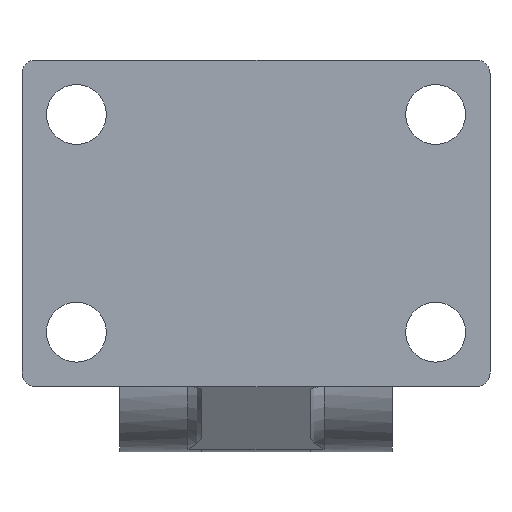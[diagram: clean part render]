
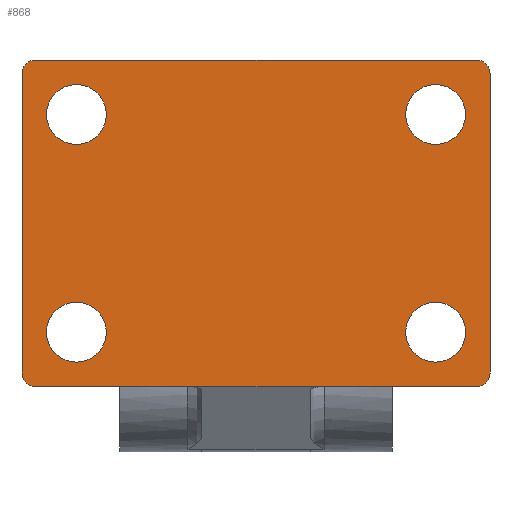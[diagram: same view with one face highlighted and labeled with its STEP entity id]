
A CAD part, left-side view. The second image highlights one B-rep face of the part: STEP entity #868.
In plain terms, the highlighted planar face has unit normal (-1, 0, 0).
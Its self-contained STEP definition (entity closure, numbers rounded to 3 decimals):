
#13=CARTESIAN_POINT('',(0.,-33.,-20.));
#14=DIRECTION('',(-1.,0.,0.));
#15=DIRECTION('',(0.,-1.,0.));
#16=AXIS2_PLACEMENT_3D('',#13,#14,#15);
#18=CARTESIAN_POINT('',(0.,-33.,-20.));
#19=DIRECTION('',(-1.,0.,0.));
#20=DIRECTION('',(0.,1.,0.));
#21=AXIS2_PLACEMENT_3D('',#18,#19,#20);
#23=CARTESIAN_POINT('',(0.,-33.,20.));
#24=DIRECTION('',(-1.,0.,0.));
#25=DIRECTION('',(0.,-1.,0.));
#26=AXIS2_PLACEMENT_3D('',#23,#24,#25);
#28=CARTESIAN_POINT('',(0.,-33.,20.));
#29=DIRECTION('',(-1.,0.,0.));
#30=DIRECTION('',(0.,1.,0.));
#31=AXIS2_PLACEMENT_3D('',#28,#29,#30);
#33=CARTESIAN_POINT('',(0.,33.,20.));
#34=DIRECTION('',(-1.,0.,0.));
#35=DIRECTION('',(0.,-1.,0.));
#36=AXIS2_PLACEMENT_3D('',#33,#34,#35);
#38=CARTESIAN_POINT('',(0.,33.,20.));
#39=DIRECTION('',(-1.,0.,0.));
#40=DIRECTION('',(0.,1.,0.));
#41=AXIS2_PLACEMENT_3D('',#38,#39,#40);
#43=CARTESIAN_POINT('',(0.,33.,-20.));
#44=DIRECTION('',(-1.,0.,0.));
#45=DIRECTION('',(0.,-1.,0.));
#46=AXIS2_PLACEMENT_3D('',#43,#44,#45);
#48=CARTESIAN_POINT('',(0.,33.,-20.));
#49=DIRECTION('',(-1.,0.,0.));
#50=DIRECTION('',(0.,1.,0.));
#51=AXIS2_PLACEMENT_3D('',#48,#49,#50);
#53=CARTESIAN_POINT('',(0.,-40.5,27.5));
#54=DIRECTION('',(-1.,0.,0.));
#55=DIRECTION('',(0.,-1.,0.));
#56=AXIS2_PLACEMENT_3D('',#53,#54,#55);
#58=DIRECTION('',(0.,0.,-1.));
#59=VECTOR('',#58,55.);
#60=CARTESIAN_POINT('',(0.,-43.,27.5));
#61=LINE('',#60,#59);
#62=CARTESIAN_POINT('',(0.,-40.5,-27.5));
#63=DIRECTION('',(-1.,0.,0.));
#64=DIRECTION('',(0.,0.,-1.));
#65=AXIS2_PLACEMENT_3D('',#62,#63,#64);
#67=DIRECTION('',(0.,1.,0.));
#68=VECTOR('',#67,81.);
#69=CARTESIAN_POINT('',(0.,-40.5,-30.));
#70=LINE('',#69,#68);
#71=CARTESIAN_POINT('',(0.,40.5,-27.5));
#72=DIRECTION('',(-1.,0.,0.));
#73=DIRECTION('',(0.,1.,0.));
#74=AXIS2_PLACEMENT_3D('',#71,#72,#73);
#76=DIRECTION('',(0.,0.,1.));
#77=VECTOR('',#76,55.);
#78=CARTESIAN_POINT('',(0.,43.,-27.5));
#79=LINE('',#78,#77);
#80=CARTESIAN_POINT('',(0.,40.5,27.5));
#81=DIRECTION('',(-1.,0.,0.));
#82=DIRECTION('',(0.,0.,1.));
#83=AXIS2_PLACEMENT_3D('',#80,#81,#82);
#85=DIRECTION('',(0.,-1.,0.));
#86=VECTOR('',#85,81.);
#87=CARTESIAN_POINT('',(0.,40.5,30.));
#88=LINE('',#87,#86);
#665=CARTESIAN_POINT('',(0.,-38.5,-20.));
#666=CARTESIAN_POINT('',(0.,-27.5,-20.));
#667=VERTEX_POINT('',#665);
#668=VERTEX_POINT('',#666);
#669=CARTESIAN_POINT('',(0.,-38.5,20.));
#670=CARTESIAN_POINT('',(0.,-27.5,20.));
#671=VERTEX_POINT('',#669);
#672=VERTEX_POINT('',#670);
#673=CARTESIAN_POINT('',(0.,27.5,20.));
#674=CARTESIAN_POINT('',(0.,38.5,20.));
#675=VERTEX_POINT('',#673);
#676=VERTEX_POINT('',#674);
#677=CARTESIAN_POINT('',(0.,27.5,-20.));
#678=CARTESIAN_POINT('',(0.,38.5,-20.));
#679=VERTEX_POINT('',#677);
#680=VERTEX_POINT('',#678);
#749=CARTESIAN_POINT('',(0.,-43.,27.5));
#750=CARTESIAN_POINT('',(0.,-40.5,30.));
#751=VERTEX_POINT('',#749);
#752=VERTEX_POINT('',#750);
#757=CARTESIAN_POINT('',(0.,-40.5,-30.));
#758=CARTESIAN_POINT('',(0.,-43.,-27.5));
#759=VERTEX_POINT('',#757);
#760=VERTEX_POINT('',#758);
#765=CARTESIAN_POINT('',(0.,43.,-27.5));
#766=CARTESIAN_POINT('',(0.,40.5,-30.));
#767=VERTEX_POINT('',#765);
#768=VERTEX_POINT('',#766);
#773=CARTESIAN_POINT('',(0.,40.5,30.));
#774=CARTESIAN_POINT('',(0.,43.,27.5));
#775=VERTEX_POINT('',#773);
#776=VERTEX_POINT('',#774);
#821=CARTESIAN_POINT('',(0.,0.,0.));
#822=DIRECTION('',(1.,0.,0.));
#823=DIRECTION('',(0.,-1.,0.));
#824=AXIS2_PLACEMENT_3D('',#821,#822,#823);
#825=PLANE('',#824);
#827=ORIENTED_EDGE('',*,*,#826,.F.);
#829=ORIENTED_EDGE('',*,*,#828,.T.);
#831=ORIENTED_EDGE('',*,*,#830,.F.);
#833=ORIENTED_EDGE('',*,*,#832,.T.);
#835=ORIENTED_EDGE('',*,*,#834,.F.);
#837=ORIENTED_EDGE('',*,*,#836,.T.);
#839=ORIENTED_EDGE('',*,*,#838,.F.);
#841=ORIENTED_EDGE('',*,*,#840,.T.);
#842=EDGE_LOOP('',(#827,#829,#831,#833,#835,#837,#839,#841));
#843=FACE_OUTER_BOUND('',#842,.F.);
#845=ORIENTED_EDGE('',*,*,#844,.T.);
#847=ORIENTED_EDGE('',*,*,#846,.T.);
#848=EDGE_LOOP('',(#845,#847));
#849=FACE_BOUND('',#848,.F.);
#851=ORIENTED_EDGE('',*,*,#850,.T.);
#853=ORIENTED_EDGE('',*,*,#852,.T.);
#854=EDGE_LOOP('',(#851,#853));
#855=FACE_BOUND('',#854,.F.);
#857=ORIENTED_EDGE('',*,*,#856,.T.);
#859=ORIENTED_EDGE('',*,*,#858,.T.);
#860=EDGE_LOOP('',(#857,#859));
#861=FACE_BOUND('',#860,.F.);
#863=ORIENTED_EDGE('',*,*,#862,.T.);
#865=ORIENTED_EDGE('',*,*,#864,.T.);
#866=EDGE_LOOP('',(#863,#865));
#867=FACE_BOUND('',#866,.F.);
#868=ADVANCED_FACE('',(#843,#849,#855,#861,#867),#825,.F.);
#17=CIRCLE('',#16,5.5);
#22=CIRCLE('',#21,5.5);
#27=CIRCLE('',#26,5.5);
#32=CIRCLE('',#31,5.5);
#37=CIRCLE('',#36,5.5);
#42=CIRCLE('',#41,5.5);
#47=CIRCLE('',#46,5.5);
#52=CIRCLE('',#51,5.5);
#57=CIRCLE('',#56,2.5);
#66=CIRCLE('',#65,2.5);
#75=CIRCLE('',#74,2.5);
#84=CIRCLE('',#83,2.5);
#826=EDGE_CURVE('',#751,#752,#57,.T.);
#828=EDGE_CURVE('',#751,#760,#61,.T.);
#830=EDGE_CURVE('',#759,#760,#66,.T.);
#832=EDGE_CURVE('',#759,#768,#70,.T.);
#834=EDGE_CURVE('',#767,#768,#75,.T.);
#836=EDGE_CURVE('',#767,#776,#79,.T.);
#838=EDGE_CURVE('',#775,#776,#84,.T.);
#840=EDGE_CURVE('',#775,#752,#88,.T.);
#844=EDGE_CURVE('',#671,#672,#27,.T.);
#846=EDGE_CURVE('',#672,#671,#32,.T.);
#850=EDGE_CURVE('',#675,#676,#37,.T.);
#852=EDGE_CURVE('',#676,#675,#42,.T.);
#856=EDGE_CURVE('',#679,#680,#47,.T.);
#858=EDGE_CURVE('',#680,#679,#52,.T.);
#862=EDGE_CURVE('',#667,#668,#17,.T.);
#864=EDGE_CURVE('',#668,#667,#22,.T.);
